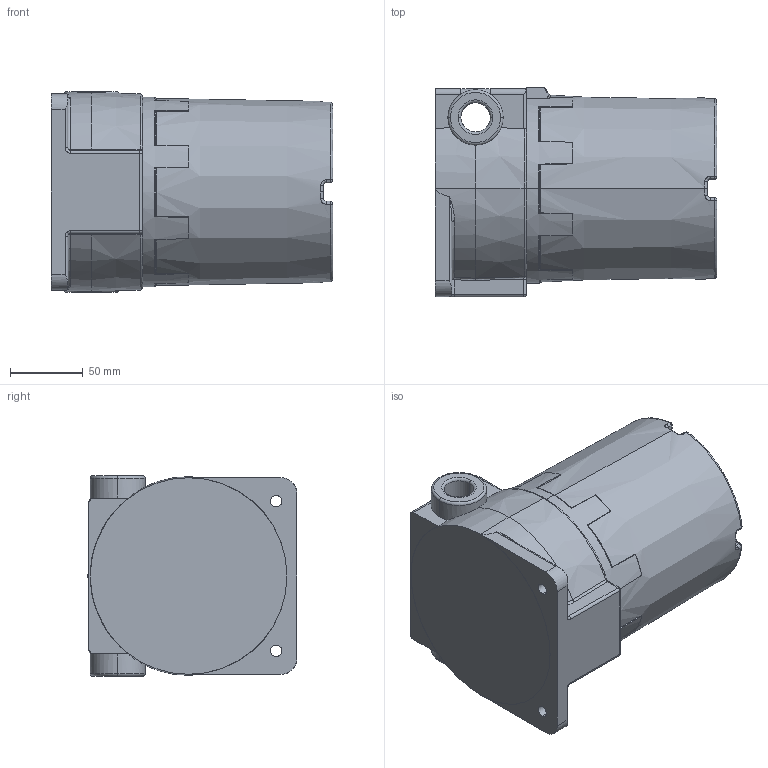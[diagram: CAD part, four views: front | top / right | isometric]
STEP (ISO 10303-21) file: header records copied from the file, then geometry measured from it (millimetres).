
FILE_DESCRIPTION (( 'STEP AP214' ), '1' );
FILE_NAME ('IVC1895.STEP', '2023-09-26T03:55:48', ( '' ), ( '' ), 'SwSTEP 2.0', 'SolidWorks 2018', '' );
FILE_SCHEMA (( 'AUTOMOTIVE_DESIGN' ));
Length unit declared in the file: inch
Products named in the file (4): Cover; Base Current Rev; Glass; IVC1895
Assembly tree (3 placements, depth 2):
  IVC1895
    Cover
    Glass
    Base Current Rev
Bounding box: 194.23 x 144.65 x 138.18 mm (x, y, z)
Volume: 1100098.1 mm3; surface area: 248540.6 mm2
Topology: 3 solids, 3 shells, 337 faces, 832 edges, 506 vertices
Faces by surface type: bspline 113, cylinder 91, plane 73, cone 44, torus 14, sphere 2
Entity records: 17429 total; most frequent: CARTESIAN_POINT 7458, ORIENTED_EDGE 1644, DIRECTION 1392, EDGE_CURVE 822, AXIS2_PLACEMENT_3D 592, VERTEX_POINT 506, EDGE_LOOP 362, CIRCLE 362
